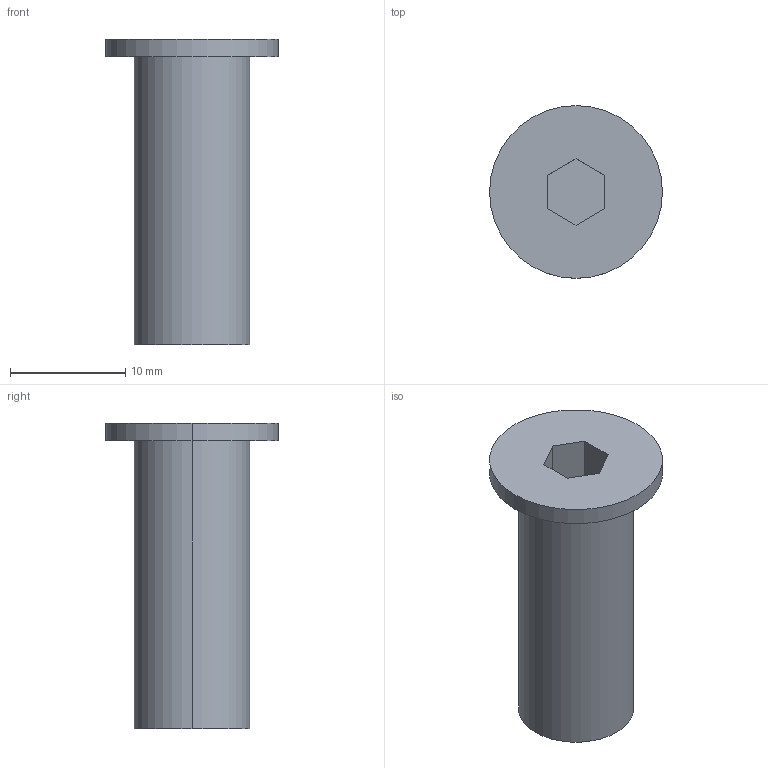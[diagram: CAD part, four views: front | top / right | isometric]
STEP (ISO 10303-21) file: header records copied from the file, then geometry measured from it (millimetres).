
FILE_DESCRIPTION (( 'STEP AP214' ), '1' );
FILE_NAME ('EXTRA_LOW_HEAD_CAP_BOLT_M10(2)(L=025).STEP', '2021-09-19T02:23:09', ( '' ), ( '' ), 'SwSTEP 2.0', 'SolidWorks 2018', '' );
FILE_SCHEMA (( 'AUTOMOTIVE_DESIGN' ));
Length unit declared in the file: millimetre
Products named in the file (1): EXTRA_LOW_HEAD_CAP_BOLT_M10(2)(L=025)
Bounding box: 15 x 15 x 26.5 mm (x, y, z)
Volume: 2098.7 mm3; surface area: 1313.4 mm2
Topology: 1 solids, 1 shells, 14 faces, 30 edges, 20 vertices
Faces by surface type: plane 10, cylinder 4
Entity records: 416 total; most frequent: DIRECTION 68, CARTESIAN_POINT 65, ORIENTED_EDGE 60, EDGE_CURVE 30, AXIS2_PLACEMENT_3D 23, LINE 22, VECTOR 22, VERTEX_POINT 20
